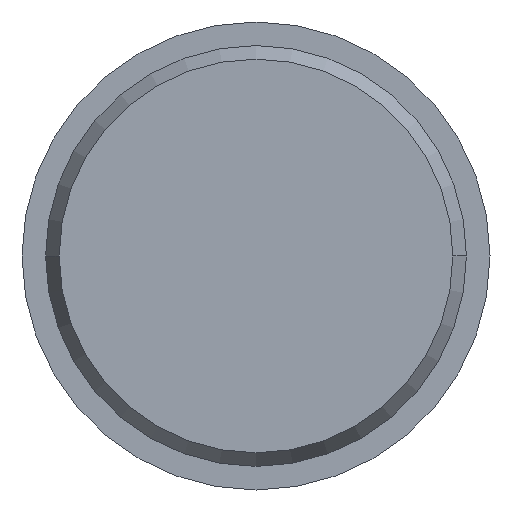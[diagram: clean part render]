
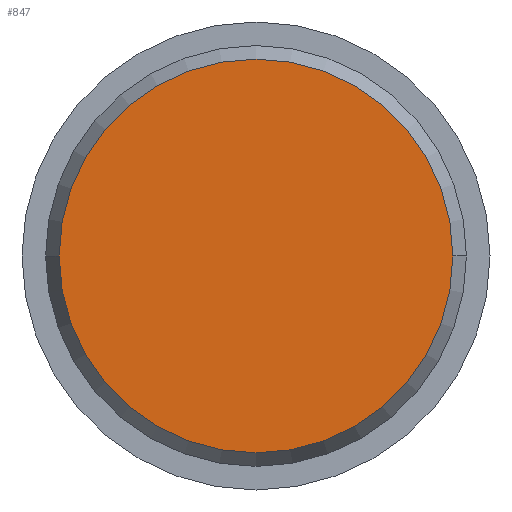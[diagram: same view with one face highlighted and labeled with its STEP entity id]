
A CAD part, left-side view. The second image highlights one B-rep face of the part: STEP entity #847.
In plain terms, the highlighted planar face has unit normal (-1, 0, 0).
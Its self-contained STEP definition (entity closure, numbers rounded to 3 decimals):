
#30 = CIRCLE ( 'NONE', #318, 8.35 ) ;
#59 = EDGE_CURVE ( 'NONE', #268, #376, #1056, .T. ) ;
#176 = EDGE_CURVE ( 'NONE', #376, #268, #30, .T. ) ;
#204 = AXIS2_PLACEMENT_3D ( 'NONE', #269, #927, #854 ) ;
#256 = DIRECTION ( 'NONE',  ( 0., 1., 0. ) ) ;
#268 = VERTEX_POINT ( 'NONE', #659 ) ;
#269 = CARTESIAN_POINT ( 'NONE',  ( 0., 0., 0. ) ) ;
#305 = CARTESIAN_POINT ( 'NONE',  ( 0., 0., 0. ) ) ;
#318 = AXIS2_PLACEMENT_3D ( 'NONE', #305, #324, #331 ) ;
#324 = DIRECTION ( 'NONE',  ( 1., 0., 0. ) ) ;
#331 = DIRECTION ( 'NONE',  ( 0., 1., 0. ) ) ;
#340 = CARTESIAN_POINT ( 'NONE',  ( 0., 0., 0. ) ) ;
#376 = VERTEX_POINT ( 'NONE', #720 ) ;
#464 = FACE_OUTER_BOUND ( 'NONE', #917, .T. ) ;
#506 = DIRECTION ( 'NONE',  ( 1., 0., 0. ) ) ;
#659 = CARTESIAN_POINT ( 'NONE',  ( 0., 8.35, 0. ) ) ;
#720 = CARTESIAN_POINT ( 'NONE',  ( 0., -8.35, 0. ) ) ;
#808 = ORIENTED_EDGE ( 'NONE', *, *, #176, .F. ) ;
#847 = ADVANCED_FACE ( 'NONE', ( #464 ), #958, .T. ) ;
#854 = DIRECTION ( 'NONE',  ( 0., -1., 0. ) ) ;
#917 = EDGE_LOOP ( 'NONE', ( #1019, #808 ) ) ;
#927 = DIRECTION ( 'NONE',  ( -1., 0., 0. ) ) ;
#958 = PLANE ( 'NONE',  #204 ) ;
#1019 = ORIENTED_EDGE ( 'NONE', *, *, #59, .F. ) ;
#1038 = AXIS2_PLACEMENT_3D ( 'NONE', #340, #506, #256 ) ;
#1056 = CIRCLE ( 'NONE', #1038, 8.35 ) ;
